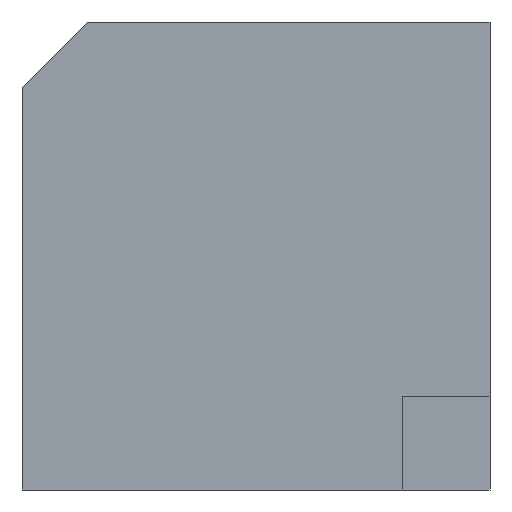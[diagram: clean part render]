
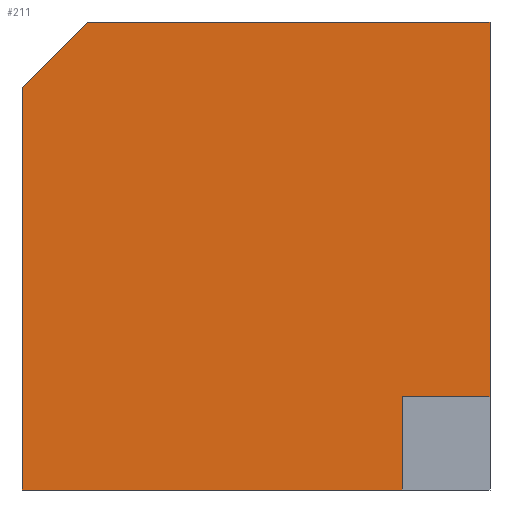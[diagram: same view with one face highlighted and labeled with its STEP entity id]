
A CAD part, front view. The second image highlights one B-rep face of the part: STEP entity #211.
In plain terms, the highlighted planar face has unit normal (0, -1, 0).
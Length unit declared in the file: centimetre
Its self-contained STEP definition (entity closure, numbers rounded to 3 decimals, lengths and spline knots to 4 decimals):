
#28 = CARTESIAN_POINT ( 'NONE',  ( 1000., 0., 199.5408 ) ) ;
#32 = EDGE_CURVE ( 'NONE', #277, #210, #186, .T. ) ;
#56 = VERTEX_POINT ( 'NONE', #465 ) ;
#67 = VECTOR ( 'NONE', #636, 100. ) ;
#104 = EDGE_CURVE ( 'NONE', #56, #392, #255, .T. ) ;
#130 = ORIENTED_EDGE ( 'NONE', *, *, #650, .T. ) ;
#131 = CARTESIAN_POINT ( 'NONE',  ( 1000., 0., 1000. ) ) ;
#145 = DIRECTION ( 'NONE',  ( 0., 0., -1. ) ) ;
#149 = CARTESIAN_POINT ( 'NONE',  ( 1000., 0., 1000. ) ) ;
#151 = LINE ( 'NONE', #533, #257 ) ;
#152 = VERTEX_POINT ( 'NONE', #202 ) ;
#165 = ORIENTED_EDGE ( 'NONE', *, *, #104, .T. ) ;
#169 = EDGE_CURVE ( 'NONE', #392, #705, #523, .T. ) ;
#175 = ORIENTED_EDGE ( 'NONE', *, *, #32, .F. ) ;
#177 = DIRECTION ( 'NONE',  ( 0., 1., 0. ) ) ;
#186 = LINE ( 'NONE', #149, #566 ) ;
#202 = CARTESIAN_POINT ( 'NONE',  ( 812.3739, 0., 0. ) ) ;
#210 = VERTEX_POINT ( 'NONE', #28 ) ;
#211 = ADVANCED_FACE ( 'NONE', ( #452 ), #560, .F. ) ;
#235 = VECTOR ( 'NONE', #528, 100. ) ;
#240 = LINE ( 'NONE', #252, #455 ) ;
#248 = CARTESIAN_POINT ( 'NONE',  ( 0., 0., 1000. ) ) ;
#250 = CARTESIAN_POINT ( 'NONE',  ( 812.3739, 0., 199.5408 ) ) ;
#252 = CARTESIAN_POINT ( 'NONE',  ( 0., 0., 1000. ) ) ;
#255 = LINE ( 'NONE', #472, #366 ) ;
#257 = VECTOR ( 'NONE', #267, 100. ) ;
#267 = DIRECTION ( 'NONE',  ( 1., 0., 0. ) ) ;
#277 = VERTEX_POINT ( 'NONE', #131 ) ;
#288 = CARTESIAN_POINT ( 'NONE',  ( 812.3739, 0., 199.5408 ) ) ;
#312 = CARTESIAN_POINT ( 'NONE',  ( 812.3739, 0., 199.5408 ) ) ;
#316 = CARTESIAN_POINT ( 'NONE',  ( 0., 0., 860.2794 ) ) ;
#329 = VERTEX_POINT ( 'NONE', #288 ) ;
#339 = EDGE_CURVE ( 'NONE', #56, #277, #240, .T. ) ;
#366 = VECTOR ( 'NONE', #410, 100. ) ;
#382 = ORIENTED_EDGE ( 'NONE', *, *, #169, .T. ) ;
#392 = VERTEX_POINT ( 'NONE', #316 ) ;
#396 = ORIENTED_EDGE ( 'NONE', *, *, #339, .F. ) ;
#406 = LINE ( 'NONE', #250, #526 ) ;
#410 = DIRECTION ( 'NONE',  ( -0.707, 0., -0.707 ) ) ;
#447 = EDGE_CURVE ( 'NONE', #329, #152, #532, .T. ) ;
#452 = FACE_OUTER_BOUND ( 'NONE', #600, .T. ) ;
#455 = VECTOR ( 'NONE', #590, 100. ) ;
#460 = CARTESIAN_POINT ( 'NONE',  ( 0., 0., 1000. ) ) ;
#465 = CARTESIAN_POINT ( 'NONE',  ( 139.7206, 0., 1000. ) ) ;
#472 = CARTESIAN_POINT ( 'NONE',  ( 139.7206, 0., 1000. ) ) ;
#476 = EDGE_CURVE ( 'NONE', #210, #329, #406, .T. ) ;
#480 = ORIENTED_EDGE ( 'NONE', *, *, #476, .F. ) ;
#512 = DIRECTION ( 'NONE',  ( -1., 0., 0. ) ) ;
#523 = LINE ( 'NONE', #248, #67 ) ;
#526 = VECTOR ( 'NONE', #512, 100. ) ;
#528 = DIRECTION ( 'NONE',  ( 0., 0., -1. ) ) ;
#532 = LINE ( 'NONE', #312, #235 ) ;
#533 = CARTESIAN_POINT ( 'NONE',  ( 0., 0., 0. ) ) ;
#544 = CARTESIAN_POINT ( 'NONE',  ( 0., 0., 0. ) ) ;
#560 = PLANE ( 'NONE',  #608 ) ;
#562 = DIRECTION ( 'NONE',  ( 0., 0., 1. ) ) ;
#566 = VECTOR ( 'NONE', #145, 100. ) ;
#590 = DIRECTION ( 'NONE',  ( 1., 0., 0. ) ) ;
#600 = EDGE_LOOP ( 'NONE', ( #130, #654, #480, #175, #396, #165, #382 ) ) ;
#608 = AXIS2_PLACEMENT_3D ( 'NONE', #460, #177, #562 ) ;
#636 = DIRECTION ( 'NONE',  ( 0., 0., -1. ) ) ;
#650 = EDGE_CURVE ( 'NONE', #705, #152, #151, .T. ) ;
#654 = ORIENTED_EDGE ( 'NONE', *, *, #447, .F. ) ;
#705 = VERTEX_POINT ( 'NONE', #544 ) ;
